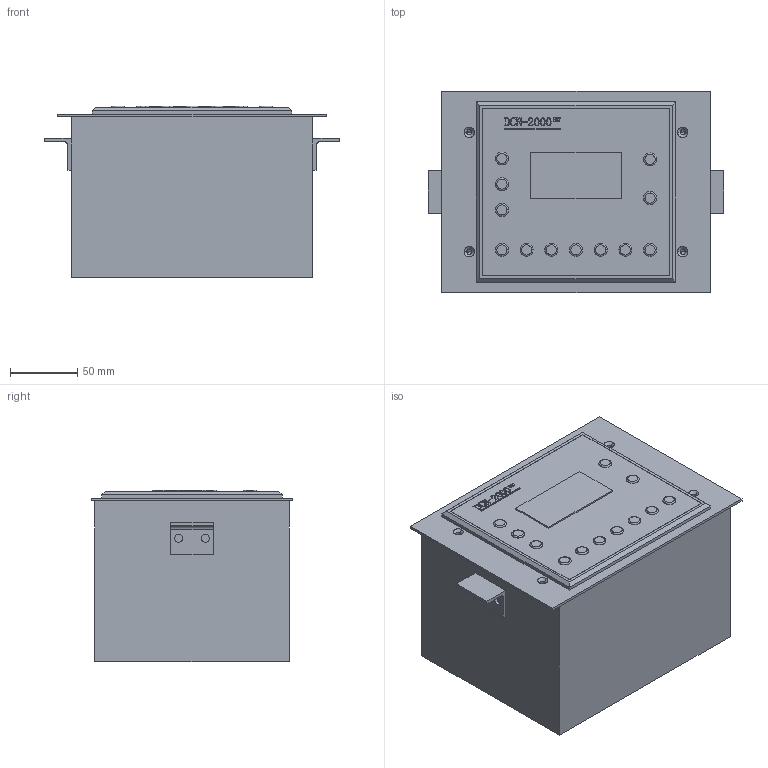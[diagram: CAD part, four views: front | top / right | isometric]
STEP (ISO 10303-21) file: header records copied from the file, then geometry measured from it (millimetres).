
FILE_DESCRIPTION (( 'STEP AP203' ), '1' );
FILE_NAME ('DCN2000.STEP', '2018-08-17T01:51:17', ( '' ), ( '' ), 'SwSTEP 2.0', 'SolidWorks 2015', '' );
FILE_SCHEMA (( 'CONFIG_CONTROL_DESIGN' ));
Length unit declared in the file: millimetre
Products named in the file (1): DCN2000
Bounding box: 220 x 150 x 127.94 mm (x, y, z)
Volume: 3296084.6 mm3; surface area: 145594.5 mm2
Topology: 1 solids, 1 shells, 339 faces, 853 edges, 550 vertices
Faces by surface type: plane 178, bspline 79, cylinder 42, torus 24, cone 16
Entity records: 14058 total; most frequent: CARTESIAN_POINT 6310, ORIENTED_EDGE 1690, DIRECTION 1349, EDGE_CURVE 845, VERTEX_POINT 550, LINE 547, VECTOR 547, AXIS2_PLACEMENT_3D 401
